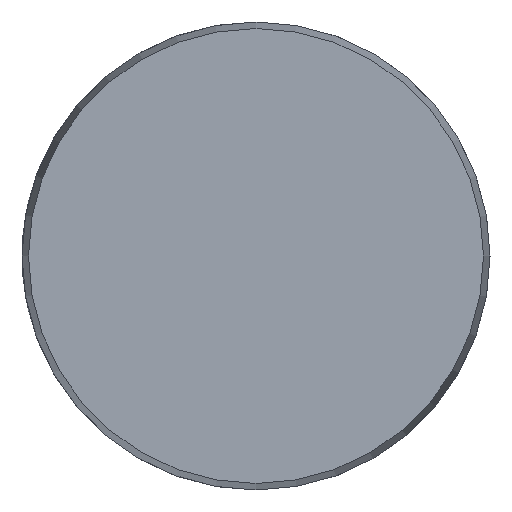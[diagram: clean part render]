
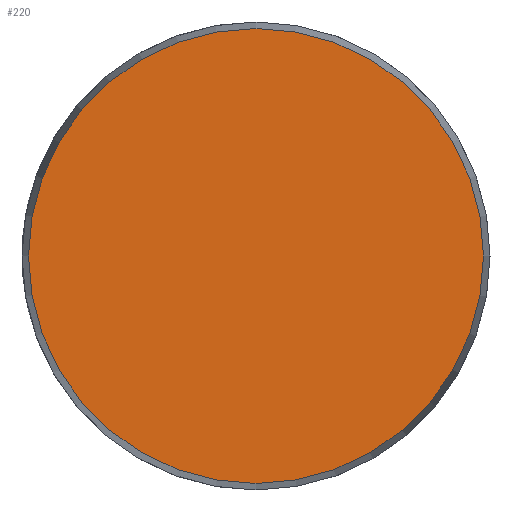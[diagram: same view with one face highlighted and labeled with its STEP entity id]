
A CAD part, left-side view. The second image highlights one B-rep face of the part: STEP entity #220.
In plain terms, the highlighted planar face has unit normal (-1, 0, 0).
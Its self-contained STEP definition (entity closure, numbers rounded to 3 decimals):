
#22=PLANE('',#271);
#36=FACE_OUTER_BOUND('',#49,.T.);
#49=EDGE_LOOP('',(#186));
#85=CIRCLE('',#272,12.15);
#103=VERTEX_POINT('',#409);
#131=EDGE_CURVE('',#103,#103,#85,.T.);
#186=ORIENTED_EDGE('',*,*,#131,.F.);
#220=ADVANCED_FACE('',(#36),#22,.T.);
#271=AXIS2_PLACEMENT_3D('',#408,#341,#342);
#272=AXIS2_PLACEMENT_3D('',#410,#343,#344);
#341=DIRECTION('center_axis',(-1.,0.,0.));
#342=DIRECTION('ref_axis',(0.,0.,1.));
#343=DIRECTION('center_axis',(1.,0.,0.));
#344=DIRECTION('ref_axis',(0.,0.,-1.));
#408=CARTESIAN_POINT('Origin',(0.,12.15,0.));
#409=CARTESIAN_POINT('',(0.,-12.15,0.));
#410=CARTESIAN_POINT('Origin',(0.,0.,0.));
